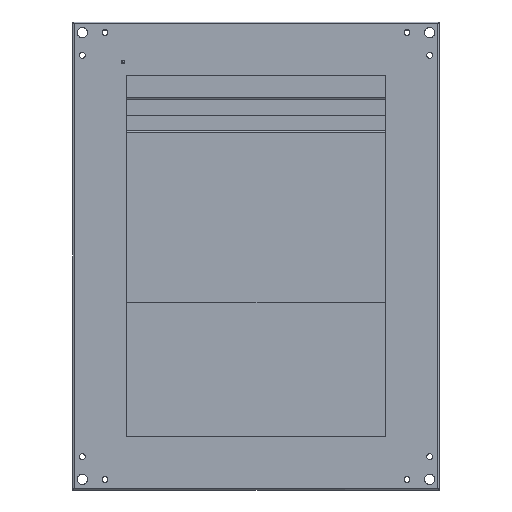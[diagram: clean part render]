
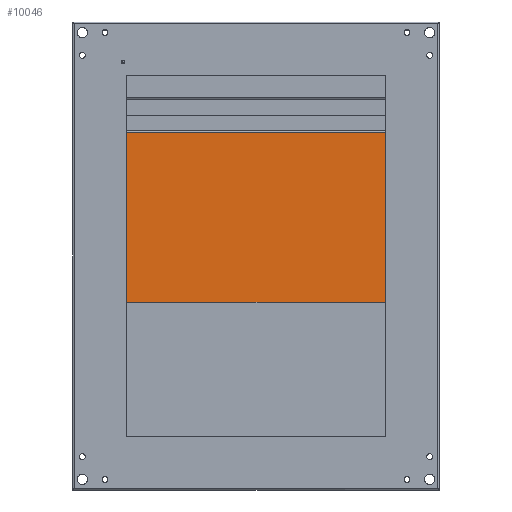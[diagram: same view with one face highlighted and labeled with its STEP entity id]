
A CAD part, front view. The second image highlights one B-rep face of the part: STEP entity #10046.
In plain terms, the highlighted planar face has unit normal (0, -1, 0).
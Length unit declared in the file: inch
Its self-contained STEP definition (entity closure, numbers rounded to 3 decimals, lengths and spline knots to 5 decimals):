
#409 = EDGE_CURVE ( 'NONE', #1874, #1875, #4888, .T. ) ;
#413 = EDGE_CURVE ( 'NONE', #1876, #1877, #4907, .T. ) ;
#417 = EDGE_CURVE ( 'NONE', #1878, #1877, #4910, .T. ) ;
#418 = EDGE_CURVE ( 'NONE', #1872, #1874, #4920, .T. ) ;
#419 = EDGE_CURVE ( 'NONE', #1872, #1873, #4916, .T. ) ;
#420 = EDGE_CURVE ( 'NONE', #1875, #1876, #4919, .T. ) ;
#421 = EDGE_CURVE ( 'NONE', #1879, #1878, #4923, .T. ) ;
#422 = EDGE_CURVE ( 'NONE', #1879, #1880, #4918, .T. ) ;
#423 = EDGE_CURVE ( 'NONE', #1880, #1881, #4927, .T. ) ;
#424 = EDGE_CURVE ( 'NONE', #1882, #1881, #4929, .T. ) ;
#425 = EDGE_CURVE ( 'NONE', #1882, #1883, #4917, .T. ) ;
#426 = EDGE_CURVE ( 'NONE', #1883, #1884, #4933, .T. ) ;
#427 = EDGE_CURVE ( 'NONE', #1884, #1885, #4935, .T. ) ;
#428 = EDGE_CURVE ( 'NONE', #1885, #1873, #4938, .T. ) ;
#1385 = EDGE_LOOP ( 'NONE', ( #1728, #1729, #1730, #1731, #1732, #1733, #1734, #1735, #1736, #1737, #1738, #1739, #1740, #1741 ) ) ;
#1728 = ORIENTED_EDGE ( 'NONE', *, *, #419, .F. ) ;
#1729 = ORIENTED_EDGE ( 'NONE', *, *, #418, .T. ) ;
#1730 = ORIENTED_EDGE ( 'NONE', *, *, #409, .T. ) ;
#1731 = ORIENTED_EDGE ( 'NONE', *, *, #420, .T. ) ;
#1732 = ORIENTED_EDGE ( 'NONE', *, *, #413, .T. ) ;
#1733 = ORIENTED_EDGE ( 'NONE', *, *, #417, .F. ) ;
#1734 = ORIENTED_EDGE ( 'NONE', *, *, #421, .F. ) ;
#1735 = ORIENTED_EDGE ( 'NONE', *, *, #422, .T. ) ;
#1736 = ORIENTED_EDGE ( 'NONE', *, *, #423, .T. ) ;
#1737 = ORIENTED_EDGE ( 'NONE', *, *, #424, .F. ) ;
#1738 = ORIENTED_EDGE ( 'NONE', *, *, #425, .T. ) ;
#1739 = ORIENTED_EDGE ( 'NONE', *, *, #426, .T. ) ;
#1740 = ORIENTED_EDGE ( 'NONE', *, *, #427, .T. ) ;
#1741 = ORIENTED_EDGE ( 'NONE', *, *, #428, .T. ) ;
#1872 = VERTEX_POINT ( 'NONE', #6794 ) ;
#1873 = VERTEX_POINT ( 'NONE', #6795 ) ;
#1874 = VERTEX_POINT ( 'NONE', #6796 ) ;
#1875 = VERTEX_POINT ( 'NONE', #6797 ) ;
#1876 = VERTEX_POINT ( 'NONE', #6798 ) ;
#1877 = VERTEX_POINT ( 'NONE', #6799 ) ;
#1878 = VERTEX_POINT ( 'NONE', #6800 ) ;
#1879 = VERTEX_POINT ( 'NONE', #6801 ) ;
#1880 = VERTEX_POINT ( 'NONE', #6802 ) ;
#1881 = VERTEX_POINT ( 'NONE', #6803 ) ;
#1882 = VERTEX_POINT ( 'NONE', #6804 ) ;
#1883 = VERTEX_POINT ( 'NONE', #6805 ) ;
#1884 = VERTEX_POINT ( 'NONE', #6806 ) ;
#1885 = VERTEX_POINT ( 'NONE', #6807 ) ;
#2824 = AXIS2_PLACEMENT_3D ( 'NONE', #5561, #5562, #5563 ) ;
#2825 = AXIS2_PLACEMENT_3D ( 'NONE', #5581, #5586, #5587 ) ;
#3144 = AXIS2_PLACEMENT_3D ( 'NONE', #9230, #9237, #9238 ) ;
#4888 = LINE ( 'NONE', #5539, #4902 ) ;
#4902 = VECTOR ( 'NONE', #5543, 39.37008 ) ;
#4905 = VECTOR ( 'NONE', #5565, 39.37008 ) ;
#4907 = LINE ( 'NONE', #5542, #4909 ) ;
#4909 = VECTOR ( 'NONE', #5552, 39.37008 ) ;
#4910 = LINE ( 'NONE', #5557, #4915 ) ;
#4915 = VECTOR ( 'NONE', #5560, 39.37008 ) ;
#4916 = LINE ( 'NONE', #5564, #4905 ) ;
#4917 = LINE ( 'NONE', #5571, #4931 ) ;
#4918 = LINE ( 'NONE', #5566, #4925 ) ;
#4919 = LINE ( 'NONE', #5559, #4921 ) ;
#4920 = CIRCLE ( 'NONE', #2824, 0.25 ) ;
#4921 = VECTOR ( 'NONE', #5567, 39.37008 ) ;
#4923 = LINE ( 'NONE', #5569, #4924 ) ;
#4924 = VECTOR ( 'NONE', #5570, 39.37008 ) ;
#4925 = VECTOR ( 'NONE', #5575, 39.37008 ) ;
#4927 = LINE ( 'NONE', #5576, #4928 ) ;
#4928 = VECTOR ( 'NONE', #5577, 39.37008 ) ;
#4929 = LINE ( 'NONE', #5579, #4930 ) ;
#4930 = VECTOR ( 'NONE', #5580, 39.37008 ) ;
#4931 = VECTOR ( 'NONE', #5568, 39.37008 ) ;
#4933 = LINE ( 'NONE', #5582, #4934 ) ;
#4934 = VECTOR ( 'NONE', #5583, 39.37008 ) ;
#4935 = LINE ( 'NONE', #5584, #4936 ) ;
#4936 = VECTOR ( 'NONE', #5585, 39.37008 ) ;
#4938 = CIRCLE ( 'NONE', #2825, 0.25 ) ;
#5539 = CARTESIAN_POINT ( 'NONE',  ( 0., 0., 17.8675 ) ) ;
#5542 = CARTESIAN_POINT ( 'NONE',  ( 9.862, 0., 17.925 ) ) ;
#5543 = DIRECTION ( 'NONE',  ( -1., 0., 0. ) ) ;
#5552 = DIRECTION ( 'NONE',  ( -1., 0., 0. ) ) ;
#5557 = CARTESIAN_POINT ( 'NONE',  ( 0.173, 0., 17.985 ) ) ;
#5559 = CARTESIAN_POINT ( 'NONE',  ( 9.862, 0., 17.985 ) ) ;
#5560 = DIRECTION ( 'NONE',  ( 0., 0., -1. ) ) ;
#5561 = CARTESIAN_POINT ( 'NONE',  ( 10.612, 0., 17.6175 ) ) ;
#5562 = DIRECTION ( 'NONE',  ( 0., -1., 0. ) ) ;
#5563 = DIRECTION ( 'NONE',  ( 0., 0., 1. ) ) ;
#5564 = CARTESIAN_POINT ( 'NONE',  ( 10.862, 0., 17.985 ) ) ;
#5565 = DIRECTION ( 'NONE',  ( 0., 0., -1. ) ) ;
#5566 = CARTESIAN_POINT ( 'NONE',  ( 0.115, 0., 17.985 ) ) ;
#5567 = DIRECTION ( 'NONE',  ( 0., 0., 1. ) ) ;
#5568 = DIRECTION ( 'NONE',  ( 1., 0., 0. ) ) ;
#5569 = CARTESIAN_POINT ( 'NONE',  ( 0., 0., 17.985 ) ) ;
#5570 = DIRECTION ( 'NONE',  ( 1., 0., 0. ) ) ;
#5571 = CARTESIAN_POINT ( 'NONE',  ( 0.173, 0., 0.06 ) ) ;
#5575 = DIRECTION ( 'NONE',  ( 0., 0., -1. ) ) ;
#5576 = CARTESIAN_POINT ( 'NONE',  ( 0., 0., 0. ) ) ;
#5577 = DIRECTION ( 'NONE',  ( 1., 0., 0. ) ) ;
#5579 = CARTESIAN_POINT ( 'NONE',  ( 0.173, 0., 17.985 ) ) ;
#5580 = DIRECTION ( 'NONE',  ( 0., 0., -1. ) ) ;
#5581 = CARTESIAN_POINT ( 'NONE',  ( 10.612, 0., 0.3675 ) ) ;
#5582 = CARTESIAN_POINT ( 'NONE',  ( 9.862, 0., 0. ) ) ;
#5583 = DIRECTION ( 'NONE',  ( 0., 0., 1. ) ) ;
#5584 = CARTESIAN_POINT ( 'NONE',  ( 10.862, 0., 0.1175 ) ) ;
#5585 = DIRECTION ( 'NONE',  ( 1., 0., 0. ) ) ;
#5586 = DIRECTION ( 'NONE',  ( 0., -1., 0. ) ) ;
#5587 = DIRECTION ( 'NONE',  ( 0., 0., 1. ) ) ;
#6493 = FACE_OUTER_BOUND ( 'NONE', #1385, .T. ) ;
#6794 = CARTESIAN_POINT ( 'NONE',  ( 10.862, 0., 17.6175 ) ) ;
#6795 = CARTESIAN_POINT ( 'NONE',  ( 10.862, 0., 0.3675 ) ) ;
#6796 = CARTESIAN_POINT ( 'NONE',  ( 10.612, 0., 17.8675 ) ) ;
#6797 = CARTESIAN_POINT ( 'NONE',  ( 9.862, 0., 17.8675 ) ) ;
#6798 = CARTESIAN_POINT ( 'NONE',  ( 9.862, 0., 17.925 ) ) ;
#6799 = CARTESIAN_POINT ( 'NONE',  ( 0.173, 0., 17.925 ) ) ;
#6800 = CARTESIAN_POINT ( 'NONE',  ( 0.173, 0., 17.985 ) ) ;
#6801 = CARTESIAN_POINT ( 'NONE',  ( 0.115, 0., 17.985 ) ) ;
#6802 = CARTESIAN_POINT ( 'NONE',  ( 0.115, 0., 0. ) ) ;
#6803 = CARTESIAN_POINT ( 'NONE',  ( 0.173, 0., 0. ) ) ;
#6804 = CARTESIAN_POINT ( 'NONE',  ( 0.173, 0., 0.06 ) ) ;
#6805 = CARTESIAN_POINT ( 'NONE',  ( 9.862, 0., 0.06 ) ) ;
#6806 = CARTESIAN_POINT ( 'NONE',  ( 9.862, 0., 0.1175 ) ) ;
#6807 = CARTESIAN_POINT ( 'NONE',  ( 10.612, 0., 0.1175 ) ) ;
#9230 = CARTESIAN_POINT ( 'NONE',  ( 0., 0., 17.985 ) ) ;
#9234 = PLANE ( 'NONE',  #3144 ) ;
#9237 = DIRECTION ( 'NONE',  ( 0., 1., 0. ) ) ;
#9238 = DIRECTION ( 'NONE',  ( 0., 0., 1. ) ) ;
#10046 = ADVANCED_FACE ( 'NONE', ( #6493 ), #9234, .F. ) ;
